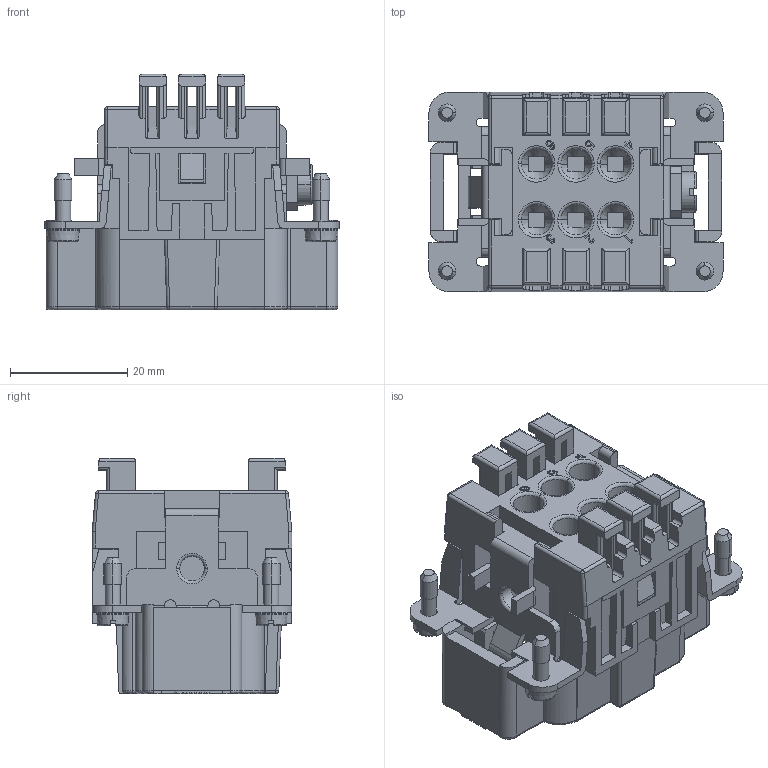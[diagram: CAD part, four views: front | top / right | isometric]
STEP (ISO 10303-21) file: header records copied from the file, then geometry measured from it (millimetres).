
FILE_DESCRIPTION (( 'STEP AP203' ), '1' );
FILE_NAME ('CSHM-06.STEP', '2016-01-08T13:29:35', ( 'Mencom User' ), ( 'Hewlett-Packard Company' ), 'SwSTEP 2.0', 'SolidWorks 2015', '' );
FILE_SCHEMA (( 'CONFIG_CONTROL_DESIGN' ));
Length unit declared in the file: inch
Products named in the file (1): CSHM-06
Bounding box: 50.1 x 34 x 40.1 mm (x, y, z)
Volume: 24501.5 mm3; surface area: 19362.8 mm2
Topology: 9 solids, 9 shells, 1702 faces, 4737 edges, 3105 vertices
Faces by surface type: plane 1248, cylinder 320, cone 66, bspline 56, torus 12
Entity records: 58911 total; most frequent: CARTESIAN_POINT 16610, ORIENTED_EDGE 9458, DIRECTION 7733, EDGE_CURVE 4729, LINE 3501, VECTOR 3501, VERTEX_POINT 3105, AXIS2_PLACEMENT_3D 2116
